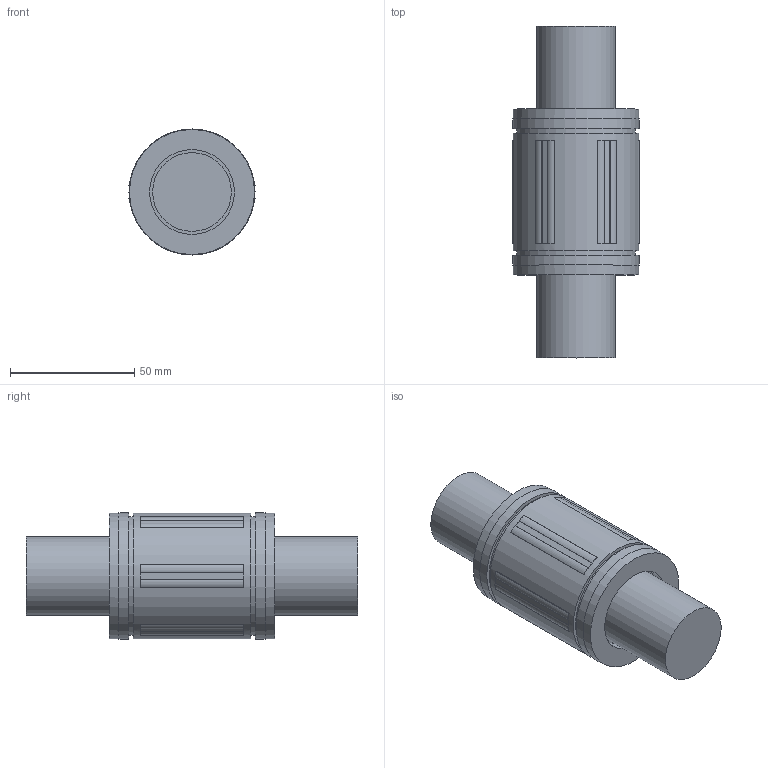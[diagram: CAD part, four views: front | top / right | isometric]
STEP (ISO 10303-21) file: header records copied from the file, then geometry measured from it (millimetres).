
FILE_DESCRIPTION((''),'2;1');
FILE_NAME('D:\STEP\SUPER\LMBS\LMBS20.stp','2013-02-14T08:05:11',('user2'),(''),'Autodesk Inventor 2012','Autodesk Inventor 2012','');
FILE_SCHEMA(('AUTOMOTIVE_DESIGN { 1 0 10303 214 1 1 1 1 }'));
Length unit declared in the file: millimetre
Products named in the file (1): LMBS20
Bounding box: 50.8 x 133.72 x 50.8 mm (x, y, z)
Volume: 185639.4 mm3; surface area: 24384.4 mm2
Topology: 1 solids, 1 shells, 123 faces, 274 edges, 166 vertices
Faces by surface type: plane 100, cylinder 21, cone 2
Full cylindrical faces by diameter (mm): 31.75 x2, 34.2 x2, 47.9 x2, 50.6 x1, 50.8 x2
Entity records: 3392 total; most frequent: DIRECTION 660, CARTESIAN_POINT 548, ORIENTED_EDGE 520, AXIS2_PLACEMENT_3D 276, EDGE_CURVE 260, VERTEX_POINT 164, CIRCLE 152, EDGE_LOOP 148
